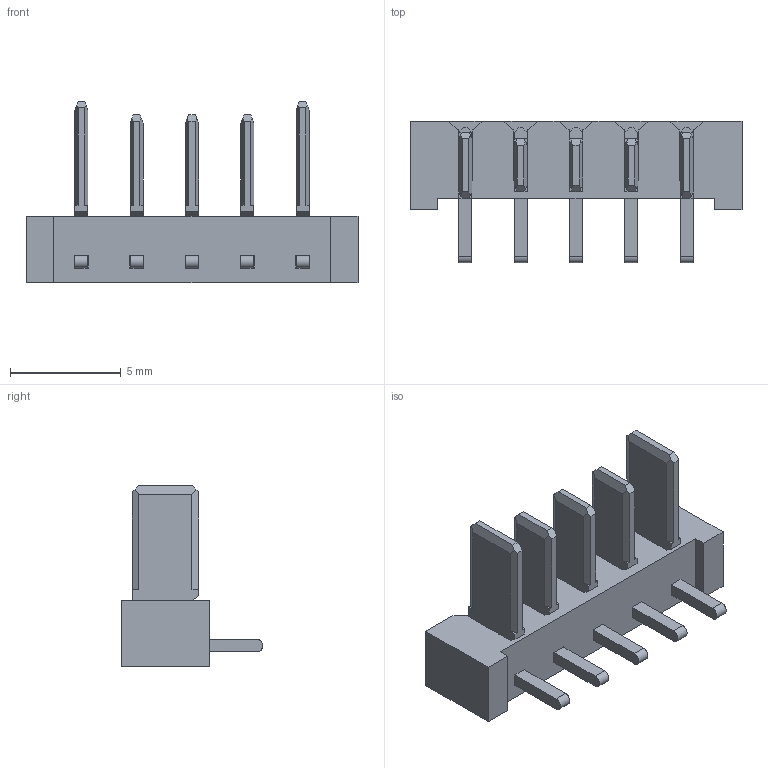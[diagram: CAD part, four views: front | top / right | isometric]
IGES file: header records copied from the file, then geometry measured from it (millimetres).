
Start section: SolidWorks IGES file using analytic representation for surfaces
Global section: file name: C:\Users\hsuan\Desktop\°õ¦æ§@·~\RFQ³æ\2026¦~\6¤ë\RB126060103\TSB1-04051-08XXA[3D].IGS; native system: SolidWorks 2022; preprocessor: SolidWorks 2022; author: hsuan; date: 260622.154715; units: millimetre
Bounding box: 15 x 6.4 x 8.2 mm (x, y, z)
Surface area: 530 mm2 (no closed solid volume)
Topology: 0 solids, 0 shells, 263 faces, 1934 edges, 1934 vertices
Faces by surface type: bspline 248, revolution 15
